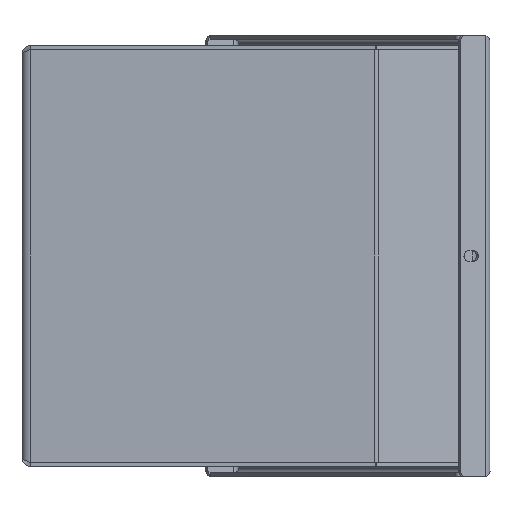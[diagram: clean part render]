
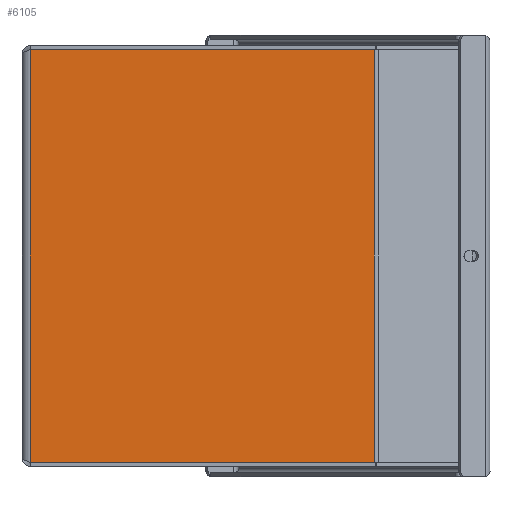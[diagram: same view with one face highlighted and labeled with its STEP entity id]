
A CAD part, left-side view. The second image highlights one B-rep face of the part: STEP entity #6105.
In plain terms, the highlighted planar face has unit normal (-1, 0, 0).
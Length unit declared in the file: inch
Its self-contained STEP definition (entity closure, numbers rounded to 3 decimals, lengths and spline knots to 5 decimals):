
#452=DIRECTION('',(0.,0.,1.));
#453=VECTOR('',#452,6.13);
#454=CARTESIAN_POINT('',(-3.39,2.3803,-3.065));
#455=LINE('',#454,#453);
#1212=DIRECTION('',(0.,-1.,0.));
#1213=VECTOR('',#1212,5.11466);
#1214=CARTESIAN_POINT('',(-3.39,2.3803,-3.065));
#1215=LINE('',#1214,#1213);
#1233=DIRECTION('',(0.,1.,0.));
#1234=VECTOR('',#1233,5.11466);
#1235=CARTESIAN_POINT('',(-3.39,-2.73436,3.065));
#1236=LINE('',#1235,#1234);
#1750=DIRECTION('',(0.,0.,-1.));
#1751=VECTOR('',#1750,6.13);
#1752=CARTESIAN_POINT('',(-3.39,-2.73436,3.065));
#1753=LINE('',#1752,#1751);
#4211=CARTESIAN_POINT('',(-3.39,2.3803,-3.065));
#4212=CARTESIAN_POINT('',(-3.39,2.3803,3.065));
#4213=VERTEX_POINT('',#4211);
#4214=VERTEX_POINT('',#4212);
#4291=CARTESIAN_POINT('',(-3.39,-2.73436,3.065));
#4292=VERTEX_POINT('',#4291);
#4293=CARTESIAN_POINT('',(-3.39,-2.73436,-3.065));
#4294=VERTEX_POINT('',#4293);
#6092=CARTESIAN_POINT('',(-3.39,2.5003,-3.125));
#6093=DIRECTION('',(-1.,0.,0.));
#6094=DIRECTION('',(0.,-1.,0.));
#6095=AXIS2_PLACEMENT_3D('',#6092,#6093,#6094);
#6096=PLANE('',#6095);
#6098=ORIENTED_EDGE('',*,*,#6097,.F.);
#6100=ORIENTED_EDGE('',*,*,#6099,.T.);
#6101=ORIENTED_EDGE('',*,*,#6083,.F.);
#6102=ORIENTED_EDGE('',*,*,#5392,.T.);
#6103=EDGE_LOOP('',(#6098,#6100,#6101,#6102));
#6104=FACE_OUTER_BOUND('',#6103,.F.);
#5392=EDGE_CURVE('',#4213,#4214,#455,.T.);
#6083=EDGE_CURVE('',#4213,#4294,#1215,.T.);
#6097=EDGE_CURVE('',#4292,#4214,#1236,.T.);
#6099=EDGE_CURVE('',#4292,#4294,#1753,.T.);
#6105=ADVANCED_FACE('',(#6104),#6096,.T.);
